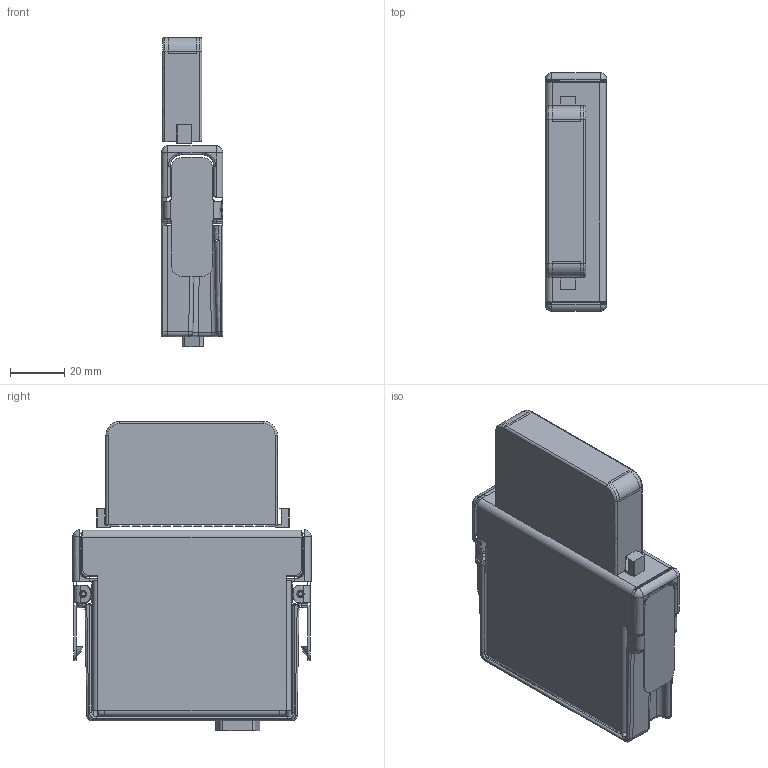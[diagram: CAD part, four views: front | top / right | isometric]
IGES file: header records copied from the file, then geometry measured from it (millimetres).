
Start section:  PTC IGES file: cu_ni-9436.igs
Global section: file name: cu_ni-9436.igs; native system: Creo Parametric by PTC Inc.; preprocessor: 2015380; author: kleong; organization: Unknown; date: 20161117.163448; units: inch
Bounding box: 22.86 x 88.11 x 114.27 mm (x, y, z)
Surface area: 29593.3 mm2 (no closed solid volume)
Topology: 0 solids, 0 shells, 230 faces, 1315 edges, 1311 vertices
Faces by surface type: bspline 118, revolution 112
